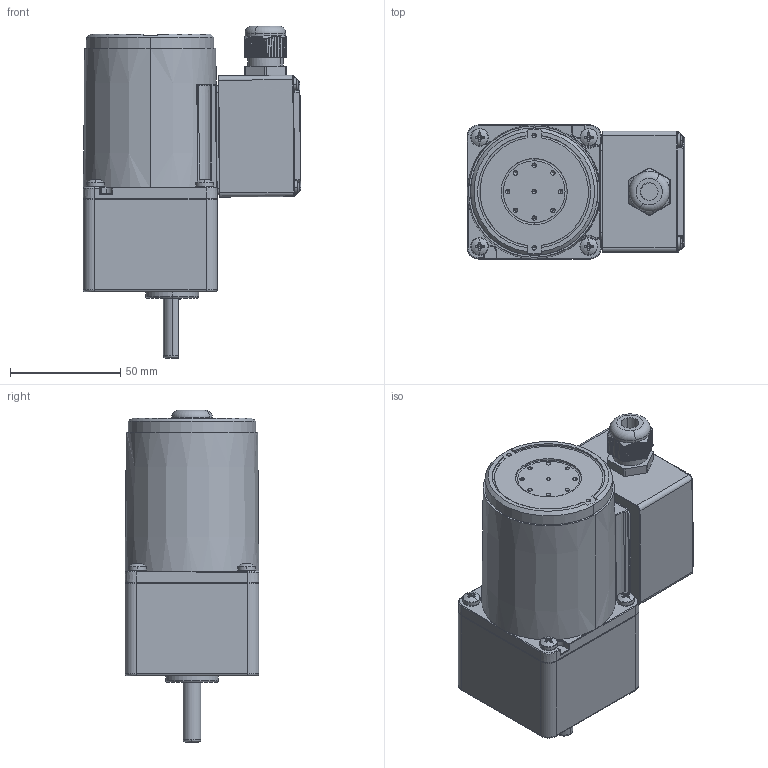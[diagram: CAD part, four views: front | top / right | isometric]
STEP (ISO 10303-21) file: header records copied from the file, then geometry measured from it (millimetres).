
FILE_DESCRIPTION (( 'STEP AP203' ), '1' );
FILE_NAME ('2IK6GN-CT(2GN3K-200K).STEP', '2020-04-06T06:54:28', ( 'Windows 蚚誧' ), ( '' ), 'SwSTEP 2.0', 'SolidWorks 2019', '' );
FILE_SCHEMA (( 'CONFIG_CONTROL_DESIGN' ));
Length unit declared in the file: millimetre
Products named in the file (9): JXH; 2IK6GN-CT(2GN3K-200K); SJQ; M3; JXHG; 2IK6A-CT; M4; DJ; 2GN3K-200K
Assembly tree (14 placements, depth 4):
  2IK6GN-CT(2GN3K-200K)
    2IK6A-CT
      DJ
      JXHG
        JXH
        SJQ
        M3  x4
    M4  x4
    2GN3K-200K
Bounding box: 98.76 x 60.8 x 150.65 mm (x, y, z)
Volume: 329521.6 mm3; surface area: 82579.3 mm2
Topology: 12 solids, 13 shells, 1927 faces, 4916 edges, 3004 vertices
Faces by surface type: cone 748, cylinder 607, plane 303, torus 139, bspline 85, sphere 45
Entity records: 38729 total; most frequent: CARTESIAN_POINT 12993, DIRECTION 5322, ORIENTED_EDGE 5202, EDGE_CURVE 2601, AXIS2_PLACEMENT_3D 2245, VERTEX_POINT 1597, CIRCLE 1257, EDGE_LOOP 1108
